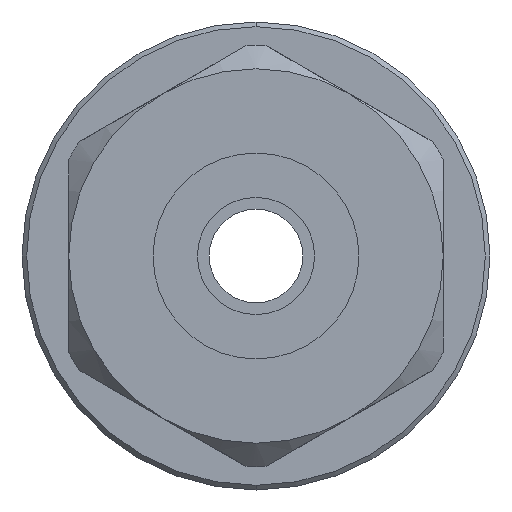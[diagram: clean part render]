
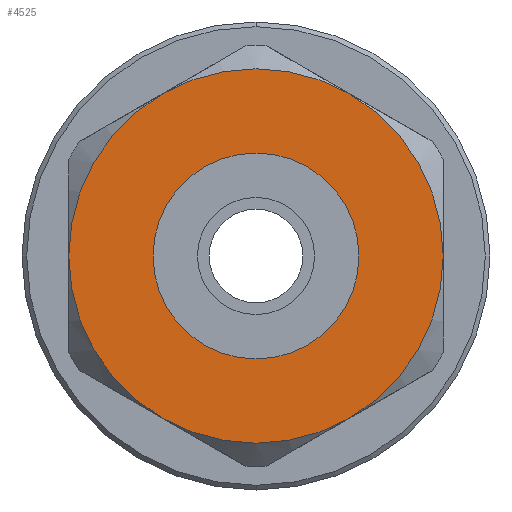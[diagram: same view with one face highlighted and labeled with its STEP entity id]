
A CAD part, front view. The second image highlights one B-rep face of the part: STEP entity #4525.
In plain terms, the highlighted planar face has unit normal (0, -1, 0).
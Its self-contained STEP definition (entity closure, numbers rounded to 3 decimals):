
#74 = EDGE_CURVE ( 'NONE', #3019, #6473, #1639, .T. ) ;
#196 = CARTESIAN_POINT ( 'NONE',  ( -1.353, -45.626, 49. ) ) ;
#245 = DIRECTION ( 'NONE',  ( -0.5, 0., -0.866 ) ) ;
#419 = CARTESIAN_POINT ( 'NONE',  ( -5.353, -45.626, 42.072 ) ) ;
#483 = DIRECTION ( 'NONE',  ( 0., -1., 0. ) ) ;
#488 = CIRCLE ( 'NONE', #2059, 4.4 ) ;
#653 = EDGE_CURVE ( 'NONE', #6473, #6906, #4787, .T. ) ;
#655 = DIRECTION ( 'NONE',  ( 0., -1., 0. ) ) ;
#881 = CARTESIAN_POINT ( 'NONE',  ( -17.353, -45.626, 49. ) ) ;
#895 = CARTESIAN_POINT ( 'NONE',  ( -9.353, -45.626, 49. ) ) ;
#921 = EDGE_CURVE ( 'NONE', #2123, #3019, #6611, .T. ) ;
#1027 = CARTESIAN_POINT ( 'NONE',  ( -9.353, -45.626, 49. ) ) ;
#1144 = FACE_BOUND ( 'NONE', #3967, .T. ) ;
#1284 = ORIENTED_EDGE ( 'NONE', *, *, #6126, .T. ) ;
#1304 = CARTESIAN_POINT ( 'NONE',  ( -7.153, -45.626, 52.811 ) ) ;
#1326 = DIRECTION ( 'NONE',  ( 0., -1., 0. ) ) ;
#1350 = CIRCLE ( 'NONE', #6838, 8. ) ;
#1426 = DIRECTION ( 'NONE',  ( -0.5, 0., -0.866 ) ) ;
#1572 = DIRECTION ( 'NONE',  ( 0.5, 0., 0.866 ) ) ;
#1639 = CIRCLE ( 'NONE', #3826, 8. ) ;
#1871 = CARTESIAN_POINT ( 'NONE',  ( -6.389, -45.626, 37.941 ) ) ;
#2059 = AXIS2_PLACEMENT_3D ( 'NONE', #5980, #2769, #6514 ) ;
#2076 = VERTEX_POINT ( 'NONE', #4119 ) ;
#2123 = VERTEX_POINT ( 'NONE', #881 ) ;
#2243 = CARTESIAN_POINT ( 'NONE',  ( -5.353, -45.626, 55.928 ) ) ;
#2338 = AXIS2_PLACEMENT_3D ( 'NONE', #1027, #4765, #1572 ) ;
#2340 = DIRECTION ( 'NONE',  ( -0.5, 0., -0.866 ) ) ;
#2374 = AXIS2_PLACEMENT_3D ( 'NONE', #1871, #5617, #2408 ) ;
#2408 = DIRECTION ( 'NONE',  ( 0.5, 0., 0.866 ) ) ;
#2482 = EDGE_CURVE ( 'NONE', #4012, #2123, #6534, .T. ) ;
#2500 = DIRECTION ( 'NONE',  ( 0., -1., 0. ) ) ;
#2550 = ORIENTED_EDGE ( 'NONE', *, *, #3714, .T. ) ;
#2571 = FACE_OUTER_BOUND ( 'NONE', #6659, .T. ) ;
#2759 = CARTESIAN_POINT ( 'NONE',  ( -9.353, -45.626, 49. ) ) ;
#2769 = DIRECTION ( 'NONE',  ( 0., 1., 0. ) ) ;
#2794 = ORIENTED_EDGE ( 'NONE', *, *, #74, .T. ) ;
#3017 = AXIS2_PLACEMENT_3D ( 'NONE', #3721, #2500, #4534 ) ;
#3019 = VERTEX_POINT ( 'NONE', #3252 ) ;
#3021 = ORIENTED_EDGE ( 'NONE', *, *, #5937, .T. ) ;
#3252 = CARTESIAN_POINT ( 'NONE',  ( -13.353, -45.626, 42.072 ) ) ;
#3264 = CIRCLE ( 'NONE', #2338, 4.4 ) ;
#3281 = ORIENTED_EDGE ( 'NONE', *, *, #921, .T. ) ;
#3660 = CARTESIAN_POINT ( 'NONE',  ( -9.353, -45.626, 49. ) ) ;
#3714 = EDGE_CURVE ( 'NONE', #2076, #4079, #488, .T. ) ;
#3721 = CARTESIAN_POINT ( 'NONE',  ( -9.353, -45.626, 49. ) ) ;
#3826 = AXIS2_PLACEMENT_3D ( 'NONE', #4009, #655, #2340 ) ;
#3910 = AXIS2_PLACEMENT_3D ( 'NONE', #895, #4626, #1426 ) ;
#3942 = AXIS2_PLACEMENT_3D ( 'NONE', #3660, #483, #4203 ) ;
#3967 = EDGE_LOOP ( 'NONE', ( #1284, #2550 ) ) ;
#4009 = CARTESIAN_POINT ( 'NONE',  ( -9.353, -45.626, 49. ) ) ;
#4012 = VERTEX_POINT ( 'NONE', #5722 ) ;
#4079 = VERTEX_POINT ( 'NONE', #1304 ) ;
#4119 = CARTESIAN_POINT ( 'NONE',  ( -11.553, -45.626, 45.189 ) ) ;
#4189 = AXIS2_PLACEMENT_3D ( 'NONE', #2759, #5564, #245 ) ;
#4203 = DIRECTION ( 'NONE',  ( -0.5, 0., -0.866 ) ) ;
#4297 = VERTEX_POINT ( 'NONE', #2243 ) ;
#4393 = ORIENTED_EDGE ( 'NONE', *, *, #2482, .T. ) ;
#4525 = ADVANCED_FACE ( 'NONE', ( #1144, #2571 ), #5595, .T. ) ;
#4529 = CARTESIAN_POINT ( 'NONE',  ( -9.353, -45.626, 49. ) ) ;
#4534 = DIRECTION ( 'NONE',  ( -0.5, 0., -0.866 ) ) ;
#4626 = DIRECTION ( 'NONE',  ( 0., -1., 0. ) ) ;
#4765 = DIRECTION ( 'NONE',  ( 0., 1., 0. ) ) ;
#4787 = CIRCLE ( 'NONE', #3017, 8. ) ;
#5067 = DIRECTION ( 'NONE',  ( -0.5, 0., -0.866 ) ) ;
#5564 = DIRECTION ( 'NONE',  ( 0., -1., 0. ) ) ;
#5595 = PLANE ( 'NONE',  #2374 ) ;
#5617 = DIRECTION ( 'NONE',  ( 0., -1., 0. ) ) ;
#5670 = EDGE_CURVE ( 'NONE', #6906, #4297, #1350, .T. ) ;
#5722 = CARTESIAN_POINT ( 'NONE',  ( -13.353, -45.626, 55.928 ) ) ;
#5832 = ORIENTED_EDGE ( 'NONE', *, *, #5670, .T. ) ;
#5937 = EDGE_CURVE ( 'NONE', #4297, #4012, #6230, .T. ) ;
#5980 = CARTESIAN_POINT ( 'NONE',  ( -9.353, -45.626, 49. ) ) ;
#6126 = EDGE_CURVE ( 'NONE', #4079, #2076, #3264, .T. ) ;
#6230 = CIRCLE ( 'NONE', #3910, 8. ) ;
#6366 = ORIENTED_EDGE ( 'NONE', *, *, #653, .T. ) ;
#6473 = VERTEX_POINT ( 'NONE', #419 ) ;
#6514 = DIRECTION ( 'NONE',  ( 0.5, 0., 0.866 ) ) ;
#6534 = CIRCLE ( 'NONE', #3942, 8. ) ;
#6611 = CIRCLE ( 'NONE', #4189, 8. ) ;
#6659 = EDGE_LOOP ( 'NONE', ( #4393, #3281, #2794, #6366, #5832, #3021 ) ) ;
#6838 = AXIS2_PLACEMENT_3D ( 'NONE', #4529, #1326, #5067 ) ;
#6906 = VERTEX_POINT ( 'NONE', #196 ) ;
